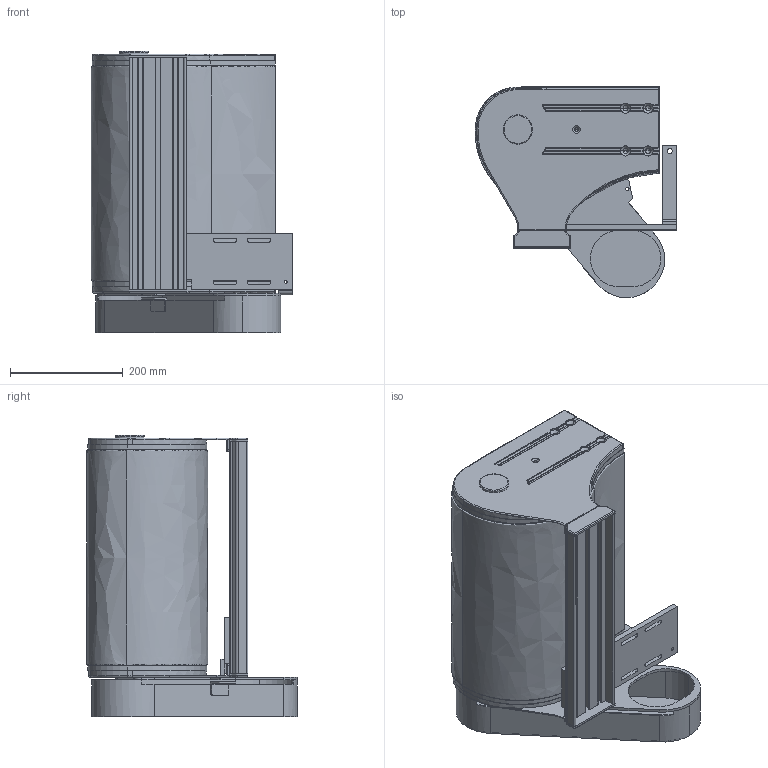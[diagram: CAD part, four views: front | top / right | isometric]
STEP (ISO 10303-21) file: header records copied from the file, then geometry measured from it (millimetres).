
FILE_DESCRIPTION (( 'STEP AP214' ), '1' );
FILE_NAME ('F2 1500 MSD30.step', '2017-04-05T06:48:15', ( '' ), ( '' ), 'SwSTEP 2.0', 'SolidWorks 2015', '' );
FILE_SCHEMA (( 'AUTOMOTIVE_DESIGN' ));
Length unit declared in the file: millimetre
Products named in the file (1): F2 1500 MSD30
Bounding box: 357.48 x 374.02 x 498.55 mm (x, y, z)
Volume: 26032152.6 mm3; surface area: 1135321.5 mm2
Topology: 9 solids, 9 shells, 819 faces, 2139 edges, 1313 vertices
Faces by surface type: cylinder 359, plane 270, torus 122, cone 40, bspline 28
Entity records: 29610 total; most frequent: CARTESIAN_POINT 7150, DIRECTION 4314, ORIENTED_EDGE 4222, EDGE_CURVE 2111, AXIS2_PLACEMENT_3D 1639, VERTEX_POINT 1313, LINE 1036, VECTOR 1036
